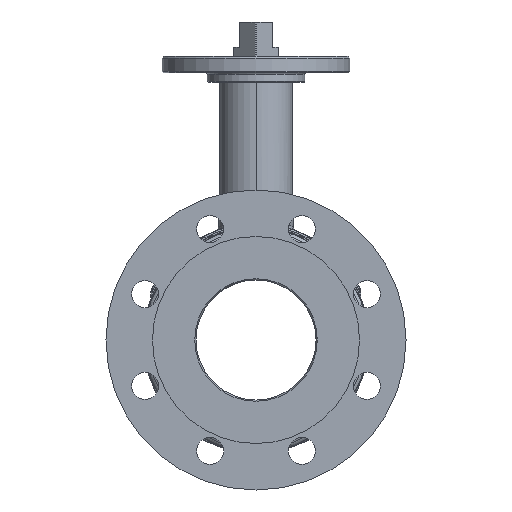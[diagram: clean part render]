
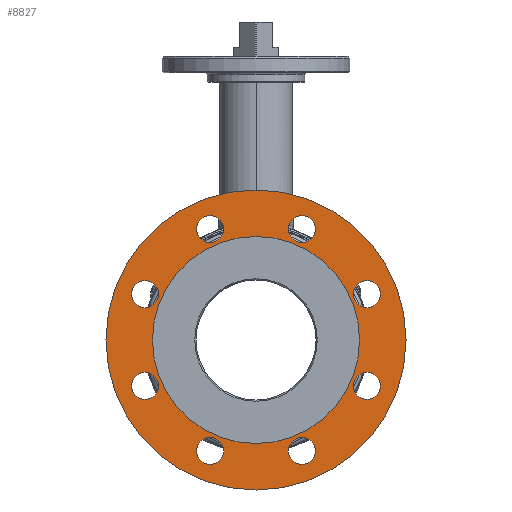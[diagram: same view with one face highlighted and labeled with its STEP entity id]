
A CAD part, left-side view. The second image highlights one B-rep face of the part: STEP entity #8827.
In plain terms, the highlighted planar face has unit normal (-1, 0, 0).
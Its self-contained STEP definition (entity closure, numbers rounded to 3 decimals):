
#1492=CARTESIAN_POINT('',(-153.,0.,0.));
#1493=DIRECTION('',(1.,0.,0.));
#1494=DIRECTION('',(0.,0.,-1.));
#1495=AXIS2_PLACEMENT_3D('',#1492,#1493,#1494);
#1497=CARTESIAN_POINT('',(-153.,0.,0.));
#1498=DIRECTION('',(1.,0.,0.));
#1499=DIRECTION('',(0.,0.,1.));
#1500=AXIS2_PLACEMENT_3D('',#1497,#1498,#1499);
#1502=CARTESIAN_POINT('',(-153.,0.,0.));
#1503=DIRECTION('',(-1.,0.,0.));
#1504=DIRECTION('',(0.,0.,1.));
#1505=AXIS2_PLACEMENT_3D('',#1502,#1503,#1504);
#1507=CARTESIAN_POINT('',(-153.,0.,0.));
#1508=DIRECTION('',(-1.,0.,0.));
#1509=DIRECTION('',(0.,0.,-1.));
#1510=AXIS2_PLACEMENT_3D('',#1507,#1508,#1509);
#1512=CARTESIAN_POINT('',(-153.,30.615,-73.91));
#1513=DIRECTION('',(-1.,0.,0.));
#1514=DIRECTION('',(0.,-1.,0.));
#1515=AXIS2_PLACEMENT_3D('',#1512,#1513,#1514);
#1517=CARTESIAN_POINT('',(-153.,30.615,-73.91));
#1518=DIRECTION('',(-1.,0.,0.));
#1519=DIRECTION('',(0.,1.,0.));
#1520=AXIS2_PLACEMENT_3D('',#1517,#1518,#1519);
#1522=CARTESIAN_POINT('',(-153.,73.91,-30.615));
#1523=DIRECTION('',(-1.,0.,0.));
#1524=DIRECTION('',(0.,-1.,0.));
#1525=AXIS2_PLACEMENT_3D('',#1522,#1523,#1524);
#1527=CARTESIAN_POINT('',(-153.,73.91,-30.615));
#1528=DIRECTION('',(-1.,0.,0.));
#1529=DIRECTION('',(0.,1.,0.));
#1530=AXIS2_PLACEMENT_3D('',#1527,#1528,#1529);
#1532=CARTESIAN_POINT('',(-153.,73.91,30.615));
#1533=DIRECTION('',(-1.,0.,0.));
#1534=DIRECTION('',(0.,-1.,0.));
#1535=AXIS2_PLACEMENT_3D('',#1532,#1533,#1534);
#1537=CARTESIAN_POINT('',(-153.,73.91,30.615));
#1538=DIRECTION('',(-1.,0.,0.));
#1539=DIRECTION('',(0.,1.,0.));
#1540=AXIS2_PLACEMENT_3D('',#1537,#1538,#1539);
#1542=CARTESIAN_POINT('',(-153.,30.615,73.91));
#1543=DIRECTION('',(-1.,0.,0.));
#1544=DIRECTION('',(0.,-1.,0.));
#1545=AXIS2_PLACEMENT_3D('',#1542,#1543,#1544);
#1547=CARTESIAN_POINT('',(-153.,30.615,73.91));
#1548=DIRECTION('',(-1.,0.,0.));
#1549=DIRECTION('',(0.,1.,0.));
#1550=AXIS2_PLACEMENT_3D('',#1547,#1548,#1549);
#1552=CARTESIAN_POINT('',(-153.,-30.615,73.91));
#1553=DIRECTION('',(-1.,0.,0.));
#1554=DIRECTION('',(0.,-1.,0.));
#1555=AXIS2_PLACEMENT_3D('',#1552,#1553,#1554);
#1557=CARTESIAN_POINT('',(-153.,-30.615,73.91));
#1558=DIRECTION('',(-1.,0.,0.));
#1559=DIRECTION('',(0.,1.,0.));
#1560=AXIS2_PLACEMENT_3D('',#1557,#1558,#1559);
#1562=CARTESIAN_POINT('',(-153.,-73.91,30.615));
#1563=DIRECTION('',(-1.,0.,0.));
#1564=DIRECTION('',(0.,-1.,0.));
#1565=AXIS2_PLACEMENT_3D('',#1562,#1563,#1564);
#1567=CARTESIAN_POINT('',(-153.,-73.91,30.615));
#1568=DIRECTION('',(-1.,0.,0.));
#1569=DIRECTION('',(0.,1.,0.));
#1570=AXIS2_PLACEMENT_3D('',#1567,#1568,#1569);
#1572=CARTESIAN_POINT('',(-153.,-73.91,-30.615));
#1573=DIRECTION('',(-1.,0.,0.));
#1574=DIRECTION('',(0.,-1.,0.));
#1575=AXIS2_PLACEMENT_3D('',#1572,#1573,#1574);
#1577=CARTESIAN_POINT('',(-153.,-73.91,-30.615));
#1578=DIRECTION('',(-1.,0.,0.));
#1579=DIRECTION('',(0.,1.,0.));
#1580=AXIS2_PLACEMENT_3D('',#1577,#1578,#1579);
#1582=CARTESIAN_POINT('',(-153.,-30.615,-73.91));
#1583=DIRECTION('',(-1.,0.,0.));
#1584=DIRECTION('',(0.,-1.,0.));
#1585=AXIS2_PLACEMENT_3D('',#1582,#1583,#1584);
#1587=CARTESIAN_POINT('',(-153.,-30.615,-73.91));
#1588=DIRECTION('',(-1.,0.,0.));
#1589=DIRECTION('',(0.,1.,0.));
#1590=AXIS2_PLACEMENT_3D('',#1587,#1588,#1589);
#6358=CARTESIAN_POINT('',(-153.,0.,-100.));
#6359=CARTESIAN_POINT('',(-153.,0.,100.));
#6360=VERTEX_POINT('',#6358);
#6361=VERTEX_POINT('',#6359);
#6366=CARTESIAN_POINT('',(-153.,0.,69.));
#6367=CARTESIAN_POINT('',(-153.,0.,-69.));
#6368=VERTEX_POINT('',#6366);
#6369=VERTEX_POINT('',#6367);
#6370=CARTESIAN_POINT('',(-153.,21.615,-73.91));
#6371=CARTESIAN_POINT('',(-153.,39.615,-73.91));
#6372=VERTEX_POINT('',#6370);
#6373=VERTEX_POINT('',#6371);
#6374=CARTESIAN_POINT('',(-153.,64.91,-30.615));
#6375=CARTESIAN_POINT('',(-153.,82.91,-30.615));
#6376=VERTEX_POINT('',#6374);
#6377=VERTEX_POINT('',#6375);
#6378=CARTESIAN_POINT('',(-153.,64.91,30.615));
#6379=CARTESIAN_POINT('',(-153.,82.91,30.615));
#6380=VERTEX_POINT('',#6378);
#6381=VERTEX_POINT('',#6379);
#6382=CARTESIAN_POINT('',(-153.,21.615,73.91));
#6383=CARTESIAN_POINT('',(-153.,39.615,73.91));
#6384=VERTEX_POINT('',#6382);
#6385=VERTEX_POINT('',#6383);
#6386=CARTESIAN_POINT('',(-153.,-39.615,73.91));
#6387=CARTESIAN_POINT('',(-153.,-21.615,73.91));
#6388=VERTEX_POINT('',#6386);
#6389=VERTEX_POINT('',#6387);
#6390=CARTESIAN_POINT('',(-153.,-82.91,30.615));
#6391=CARTESIAN_POINT('',(-153.,-64.91,30.615));
#6392=VERTEX_POINT('',#6390);
#6393=VERTEX_POINT('',#6391);
#6394=CARTESIAN_POINT('',(-153.,-82.91,-30.615));
#6395=CARTESIAN_POINT('',(-153.,-64.91,-30.615));
#6396=VERTEX_POINT('',#6394);
#6397=VERTEX_POINT('',#6395);
#6398=CARTESIAN_POINT('',(-153.,-39.615,-73.91));
#6399=CARTESIAN_POINT('',(-153.,-21.615,-73.91));
#6400=VERTEX_POINT('',#6398);
#6401=VERTEX_POINT('',#6399);
#8763=CARTESIAN_POINT('',(-153.,0.,0.));
#8764=DIRECTION('',(1.,0.,0.));
#8765=DIRECTION('',(0.,0.,1.));
#8766=AXIS2_PLACEMENT_3D('',#8763,#8764,#8765);
#8767=PLANE('',#8766);
#8769=ORIENTED_EDGE('',*,*,#8768,.T.);
#8770=ORIENTED_EDGE('',*,*,#8753,.T.);
#8771=EDGE_LOOP('',(#8769,#8770));
#8772=FACE_OUTER_BOUND('',#8771,.F.);
#8774=ORIENTED_EDGE('',*,*,#8773,.T.);
#8776=ORIENTED_EDGE('',*,*,#8775,.T.);
#8777=EDGE_LOOP('',(#8774,#8776));
#8778=FACE_BOUND('',#8777,.F.);
#8780=ORIENTED_EDGE('',*,*,#8779,.T.);
#8782=ORIENTED_EDGE('',*,*,#8781,.T.);
#8783=EDGE_LOOP('',(#8780,#8782));
#8784=FACE_BOUND('',#8783,.F.);
#8786=ORIENTED_EDGE('',*,*,#8785,.T.);
#8788=ORIENTED_EDGE('',*,*,#8787,.T.);
#8789=EDGE_LOOP('',(#8786,#8788));
#8790=FACE_BOUND('',#8789,.F.);
#8792=ORIENTED_EDGE('',*,*,#8791,.T.);
#8794=ORIENTED_EDGE('',*,*,#8793,.T.);
#8795=EDGE_LOOP('',(#8792,#8794));
#8796=FACE_BOUND('',#8795,.F.);
#8798=ORIENTED_EDGE('',*,*,#8797,.T.);
#8800=ORIENTED_EDGE('',*,*,#8799,.T.);
#8801=EDGE_LOOP('',(#8798,#8800));
#8802=FACE_BOUND('',#8801,.F.);
#8804=ORIENTED_EDGE('',*,*,#8803,.T.);
#8806=ORIENTED_EDGE('',*,*,#8805,.T.);
#8807=EDGE_LOOP('',(#8804,#8806));
#8808=FACE_BOUND('',#8807,.F.);
#8810=ORIENTED_EDGE('',*,*,#8809,.T.);
#8812=ORIENTED_EDGE('',*,*,#8811,.T.);
#8813=EDGE_LOOP('',(#8810,#8812));
#8814=FACE_BOUND('',#8813,.F.);
#8816=ORIENTED_EDGE('',*,*,#8815,.T.);
#8818=ORIENTED_EDGE('',*,*,#8817,.T.);
#8819=EDGE_LOOP('',(#8816,#8818));
#8820=FACE_BOUND('',#8819,.F.);
#8822=ORIENTED_EDGE('',*,*,#8821,.T.);
#8824=ORIENTED_EDGE('',*,*,#8823,.T.);
#8825=EDGE_LOOP('',(#8822,#8824));
#8826=FACE_BOUND('',#8825,.F.);
#8827=ADVANCED_FACE('',(#8772,#8778,#8784,#8790,#8796,#8802,#8808,#8814,#8820,
#8826),#8767,.F.);
#1496=CIRCLE('',#1495,100.);
#1501=CIRCLE('',#1500,100.);
#1506=CIRCLE('',#1505,69.);
#1511=CIRCLE('',#1510,69.);
#1516=CIRCLE('',#1515,9.);
#1521=CIRCLE('',#1520,9.);
#1526=CIRCLE('',#1525,9.);
#1531=CIRCLE('',#1530,9.);
#1536=CIRCLE('',#1535,9.);
#1541=CIRCLE('',#1540,9.);
#1546=CIRCLE('',#1545,9.);
#1551=CIRCLE('',#1550,9.);
#1556=CIRCLE('',#1555,9.);
#1561=CIRCLE('',#1560,9.);
#1566=CIRCLE('',#1565,9.);
#1571=CIRCLE('',#1570,9.);
#1576=CIRCLE('',#1575,9.);
#1581=CIRCLE('',#1580,9.);
#1586=CIRCLE('',#1585,9.);
#1591=CIRCLE('',#1590,9.);
#8753=EDGE_CURVE('',#6361,#6360,#1501,.T.);
#8768=EDGE_CURVE('',#6360,#6361,#1496,.T.);
#8773=EDGE_CURVE('',#6368,#6369,#1506,.T.);
#8775=EDGE_CURVE('',#6369,#6368,#1511,.T.);
#8779=EDGE_CURVE('',#6372,#6373,#1516,.T.);
#8781=EDGE_CURVE('',#6373,#6372,#1521,.T.);
#8785=EDGE_CURVE('',#6376,#6377,#1526,.T.);
#8787=EDGE_CURVE('',#6377,#6376,#1531,.T.);
#8791=EDGE_CURVE('',#6380,#6381,#1536,.T.);
#8793=EDGE_CURVE('',#6381,#6380,#1541,.T.);
#8797=EDGE_CURVE('',#6384,#6385,#1546,.T.);
#8799=EDGE_CURVE('',#6385,#6384,#1551,.T.);
#8803=EDGE_CURVE('',#6388,#6389,#1556,.T.);
#8805=EDGE_CURVE('',#6389,#6388,#1561,.T.);
#8809=EDGE_CURVE('',#6392,#6393,#1566,.T.);
#8811=EDGE_CURVE('',#6393,#6392,#1571,.T.);
#8815=EDGE_CURVE('',#6396,#6397,#1576,.T.);
#8817=EDGE_CURVE('',#6397,#6396,#1581,.T.);
#8821=EDGE_CURVE('',#6400,#6401,#1586,.T.);
#8823=EDGE_CURVE('',#6401,#6400,#1591,.T.);
